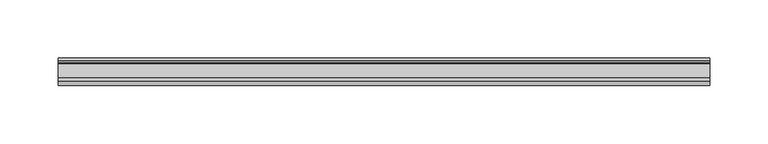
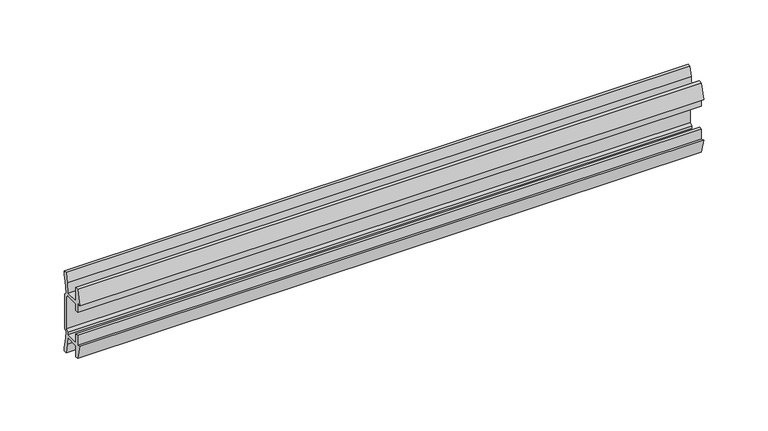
"""IFC4 building model written with IfcOpenShell, lengths in millimetres: furniture geometry, HermanMiller_Compass_TW100_WallRail : 24W x 33H Lower Position."""

from ifc_helpers import new_model, si_unit, point, frame, frame_2d, origin, place, context, project, spatial, polyline, circle_curve, trimmed, segment, composite_curve, outline, extrude, source, transform, mapped, element, save


def furniture_ccfcee1f(model_context):
    return source(origin(), model_context, "Body", "SweptSolid", [
        extrude(outline(composite_curve([segment(polyline([(11.858323, 1787.0845986), (10.7166987, 1781.1251626)]), True, "CONTINUOUS"), segment(trimmed(circle_curve(frame_2d((88.1501042, 1766.291568)), 78.8414093), [point((10.7166987, 1781.1251626))], [point((9.4546262, 1771.0863112))], True, "CARTESIAN"), True, "CONTINUOUS"), segment(polyline([(9.4546262, 1771.0863112), (11.4773198, 1769.0636177), (11.4773198, 1736.1363823), (9.4546262, 1734.1136888)]), True, "CONTINUOUS"), segment(trimmed(circle_curve(frame_2d((88.1501042, 1738.908432)), 78.8414093), [point((9.4546262, 1734.1136888))], [point((10.7166987, 1724.0748374))], True, "CARTESIAN"), True, "CONTINUOUS"), segment(polyline([(10.7166987, 1724.0748374), (11.858323, 1718.1154014), (11.858323, 1714.5006449), (9.3183016, 1714.5006449), (7.5671861, 1723.641709), (6.9977776, 1730.3354675), (-5.9218281, 1730.3354675), (-5.9218281, 1719.7705449), (-8.4618484, 1719.7705449), (-11.7914971, 1733.2790462), (-8.4618484, 1732.2801511), (-8.4618484, 1741.8052306), (-5.9218281, 1741.8052306), (-5.9218281, 1732.915155), (6.7782802, 1732.915155), (6.7782802, 1735.469689), (8.8976323, 1737.3120136), (8.8976323, 1767.8910348), (6.7782802, 1769.7454685), (-5.2868484, 1769.7454685), (-5.2868484, 1763.3954144), (-8.4618484, 1763.3954144), (-8.4618484, 1772.9204939), (-11.858323, 1771.6504837), (-8.4618484, 1785.4301), (-5.2868484, 1785.4301), (-5.2868484, 1772.2854899), (6.7782802, 1772.2854899), (7.5671861, 1781.5595809), (9.3183016, 1790.7006449), (11.858323, 1790.7006449), (11.858323, 1787.0845986)]), True, "CONTINUOUS")], self_intersect=False)), frame((-279.4, 0.0, 0.0), z_axis=(1.0, 0.0, 0.0), x_axis=(0.0, 1.0, 0.0)), (0.0, 0.0, 1.0), 558.8),
    ])


if __name__ == "__main__":
    model = new_model("IFC4")
    model_context = context("Model", 3, world=origin())
    ifc_project = project(units=[si_unit("LENGTHUNIT", "METRE", prefix="MILLI")], contexts=[model_context])
    site = spatial("IfcSite", under=ifc_project)
    building = spatial("IfcBuilding", under=site)
    placement = place(None, origin())
    furniture_shape = furniture_ccfcee1f(model_context)
    element("IfcFurniture", 1, ObjectType="HermanMiller_Compass_TW100_WallRail : 24W x 33H Lower Position", at=placement, inside=building, context=model_context, shape_type="MappedRepresentation", body=[
        mapped(furniture_shape, transform((0.0, 0.0, 0.0), x_axis=(1.0, 0.0, 0.0), y_axis=(0.0, 1.0, 0.0), z_axis=(0.0, 0.0, 1.0))),
    ])
    save(model, "model.ifc")
